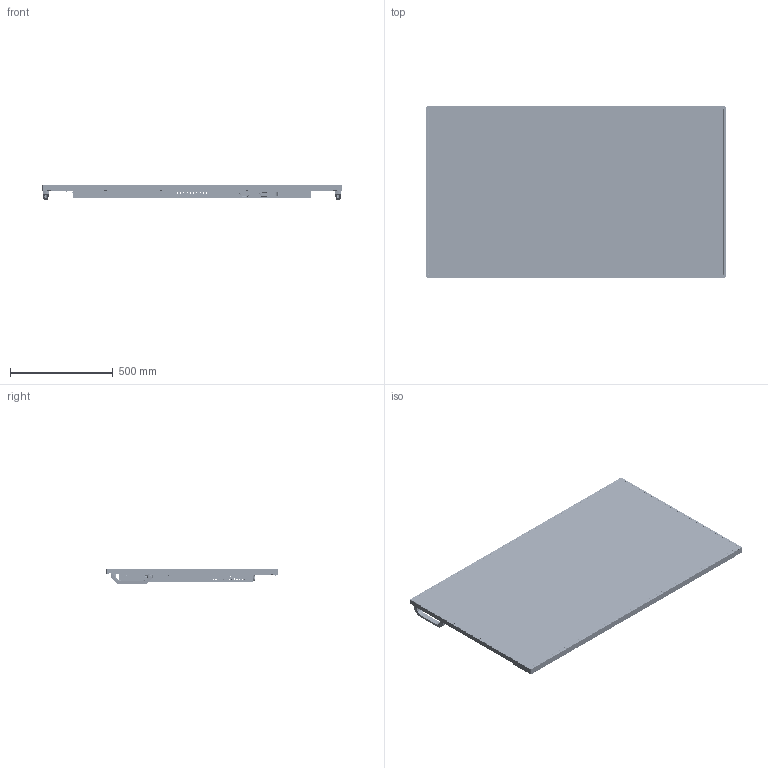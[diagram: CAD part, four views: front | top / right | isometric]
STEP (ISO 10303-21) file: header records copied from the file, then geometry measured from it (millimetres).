
FILE_DESCRIPTION (( 'STEP AP214' ), '1' );
FILE_NAME ('URP65.STEP', '2022-04-28T20:43:31', ( '' ), ( '' ), 'SwSTEP 2.0', 'SolidWorks 2021', '' );
FILE_SCHEMA (( 'AUTOMOTIVE_DESIGN' ));
Length unit declared in the file: millimetre
Products named in the file (1): URP65
Bounding box: 1454.4 x 832.2 x 74.69 mm (x, y, z)
Surface area: 6109506.2 mm2 (no closed solid volume)
Topology: 0 solids, 92 shells, 19868 faces, 56713 edges, 37401 vertices
Faces by surface type: cylinder 10225, plane 8366, bspline 1116, cone 153, torus 8
Entity records: 940664 total; most frequent: CARTESIAN_POINT 175163, ORIENTED_EDGE 113336, DIRECTION 113305, EDGE_CURVE 56676, AXIS2_PLACEMENT_3D 40386, VERTEX_POINT 37399, LINE 32533, VECTOR 32533
